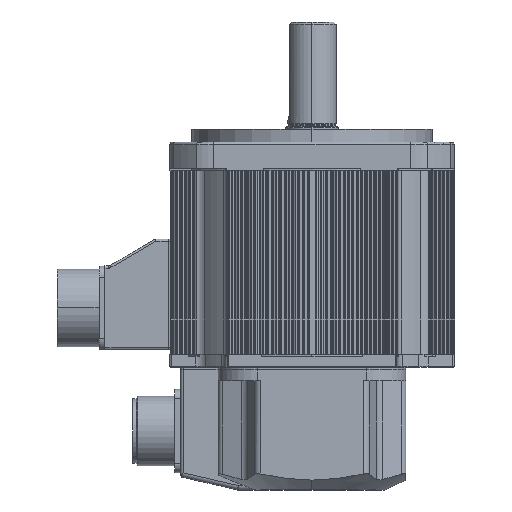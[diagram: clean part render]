
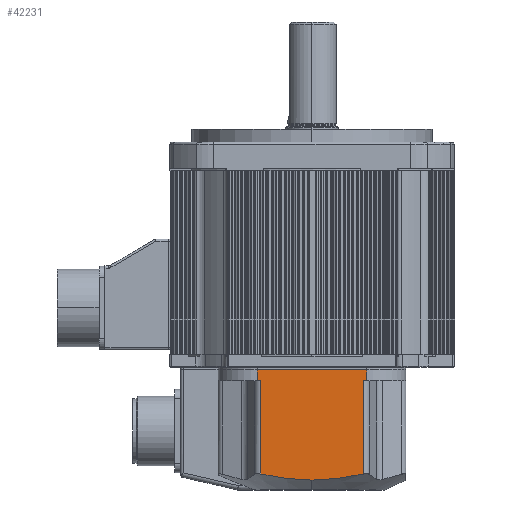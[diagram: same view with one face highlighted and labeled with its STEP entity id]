
A CAD part, left-side view. The second image highlights one B-rep face of the part: STEP entity #42231.
In plain terms, the highlighted planar face has unit normal (-1, 0, 0).
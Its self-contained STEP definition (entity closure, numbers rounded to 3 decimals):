
#1608 = PLANE ( 'NONE',  #38789 ) ;
#4573 = DIRECTION ( 'NONE',  ( 0., 0., 1. ) ) ;
#6337 = CARTESIAN_POINT ( 'NONE',  ( -43., 13.654, -49.485 ) ) ;
#7169 = CARTESIAN_POINT ( 'NONE',  ( -43., 7.799, -50.202 ) ) ;
#7355 = B_SPLINE_CURVE_WITH_KNOTS ( 'NONE', 3,
 ( #35655, #61279, #22605, #23436, #56221, #68804, #49488, #80571, #11266, #42788 ),
 .UNSPECIFIED., .F., .F.,
 ( 4, 2, 2, 2, 4 ),
 ( 0.079, 0.091, 0.097, 0.1, 0.103 ),
 .UNSPECIFIED. ) ;
#8161 = EDGE_CURVE ( 'NONE', #80842, #52055, #82097, .T. ) ;
#9846 = CARTESIAN_POINT ( 'NONE',  ( -43., -25., -5. ) ) ;
#11266 = CARTESIAN_POINT ( 'NONE',  ( -43., -22.429, -47.893 ) ) ;
#12090 = ORIENTED_EDGE ( 'NONE', *, *, #68817, .F. ) ;
#12543 = FACE_OUTER_BOUND ( 'NONE', #44622, .T. ) ;
#13380 = CARTESIAN_POINT ( 'NONE',  ( -43., 0., -5. ) ) ;
#13865 = VERTEX_POINT ( 'NONE', #79155 ) ;
#14580 = ORIENTED_EDGE ( 'NONE', *, *, #44840, .T. ) ;
#14892 = DIRECTION ( 'NONE',  ( 0., 1., 0. ) ) ;
#14985 = VERTEX_POINT ( 'NONE', #47675 ) ;
#20787 = DIRECTION ( 'NONE',  ( 0., 1., 0. ) ) ;
#22605 = CARTESIAN_POINT ( 'NONE',  ( -43., -7.808, -50.201 ) ) ;
#22757 = VECTOR ( 'NONE', #39004, 1000. ) ;
#23436 = CARTESIAN_POINT ( 'NONE',  ( -43., -13.658, -49.485 ) ) ;
#23797 = DIRECTION ( 'NONE',  ( 0., 0., 1. ) ) ;
#26200 = DIRECTION ( 'NONE',  ( 0., 0., 1. ) ) ;
#29757 = ORIENTED_EDGE ( 'NONE', *, *, #82487, .F. ) ;
#30250 = CARTESIAN_POINT ( 'NONE',  ( -43., 25., 0. ) ) ;
#30436 = VERTEX_POINT ( 'NONE', #72360 ) ;
#31281 = VERTEX_POINT ( 'NONE', #61594 ) ;
#34017 = VECTOR ( 'NONE', #4573, 1000. ) ;
#35655 = CARTESIAN_POINT ( 'NONE',  ( -43., 0., -50.454 ) ) ;
#35684 = ORIENTED_EDGE ( 'NONE', *, *, #8161, .T. ) ;
#36484 = CARTESIAN_POINT ( 'NONE',  ( -43., 25., -5. ) ) ;
#37016 = LINE ( 'NONE', #49607, #42641 ) ;
#37423 = CARTESIAN_POINT ( 'NONE',  ( -43., 3.898, -50.454 ) ) ;
#38789 = AXIS2_PLACEMENT_3D ( 'NONE', #70091, #64226, #50776 ) ;
#39004 = DIRECTION ( 'NONE',  ( 0., 1., 0. ) ) ;
#39079 = CARTESIAN_POINT ( 'NONE',  ( -43., 23.399, -47.677 ) ) ;
#41317 = ORIENTED_EDGE ( 'NONE', *, *, #42262, .F. ) ;
#41505 = VECTOR ( 'NONE', #26200, 1000. ) ;
#42065 = VECTOR ( 'NONE', #49887, 1000. ) ;
#42231 = ADVANCED_FACE ( 'NONE', ( #12543 ), #1608, .F. ) ;
#42262 = EDGE_CURVE ( 'NONE', #80842, #67165, #70923, .T. ) ;
#42641 = VECTOR ( 'NONE', #14892, 1000. ) ;
#42685 = VECTOR ( 'NONE', #23797, 1000. ) ;
#42788 = CARTESIAN_POINT ( 'NONE',  ( -43., -23.399, -47.677 ) ) ;
#44622 = EDGE_LOOP ( 'NONE', ( #29757, #51216, #14580, #62784, #41317, #35684, #82140, #12090, #51017 ) ) ;
#44840 = EDGE_CURVE ( 'NONE', #14985, #54067, #7355, .T. ) ;
#47675 = CARTESIAN_POINT ( 'NONE',  ( -43., 0., -50.454 ) ) ;
#49135 = VECTOR ( 'NONE', #20787, 1000. ) ;
#49488 = CARTESIAN_POINT ( 'NONE',  ( -43., -19.506, -48.491 ) ) ;
#49607 = CARTESIAN_POINT ( 'NONE',  ( -43., 0., 0. ) ) ;
#49685 = VERTEX_POINT ( 'NONE', #30250 ) ;
#49887 = DIRECTION ( 'NONE',  ( 0., 0., 1. ) ) ;
#50313 = LINE ( 'NONE', #36484, #34017 ) ;
#50776 = DIRECTION ( 'NONE',  ( 0., 0., -1. ) ) ;
#50852 = CARTESIAN_POINT ( 'NONE',  ( -43., 22.432, -47.893 ) ) ;
#50946 = CARTESIAN_POINT ( 'NONE',  ( -43., -25., 0. ) ) ;
#51017 = ORIENTED_EDGE ( 'NONE', *, *, #71770, .F. ) ;
#51216 = ORIENTED_EDGE ( 'NONE', *, *, #77457, .T. ) ;
#52055 = VERTEX_POINT ( 'NONE', #50946 ) ;
#54067 = VERTEX_POINT ( 'NONE', #76471 ) ;
#56221 = CARTESIAN_POINT ( 'NONE',  ( -43., -15.608, -49.19 ) ) ;
#56751 = CARTESIAN_POINT ( 'NONE',  ( -43., 0., -50.454 ) ) ;
#58989 = EDGE_CURVE ( 'NONE', #54067, #67165, #62908, .T. ) ;
#61279 = CARTESIAN_POINT ( 'NONE',  ( -43., -3.905, -50.454 ) ) ;
#61594 = CARTESIAN_POINT ( 'NONE',  ( -43., 25., -5. ) ) ;
#62065 = CARTESIAN_POINT ( 'NONE',  ( -43., -23.399, -5. ) ) ;
#62784 = ORIENTED_EDGE ( 'NONE', *, *, #58989, .T. ) ;
#62908 = LINE ( 'NONE', #81801, #42065 ) ;
#64226 = DIRECTION ( 'NONE',  ( 1., 0., 0. ) ) ;
#64459 = CARTESIAN_POINT ( 'NONE',  ( -43., -25., -5. ) ) ;
#64717 = CARTESIAN_POINT ( 'NONE',  ( -43., 21.461, -48.099 ) ) ;
#67165 = VERTEX_POINT ( 'NONE', #62065 ) ;
#68099 = B_SPLINE_CURVE_WITH_KNOTS ( 'NONE', 3,
 ( #39079, #50852, #64717, #70163, #77290, #71001, #6337, #7169, #37423, #56751 ),
 .UNSPECIFIED., .F., .F.,
 ( 4, 2, 2, 2, 4 ),
 ( 0.056, 0.058, 0.061, 0.067, 0.079 ),
 .UNSPECIFIED. ) ;
#68804 = CARTESIAN_POINT ( 'NONE',  ( -43., -18.531, -48.675 ) ) ;
#68817 = EDGE_CURVE ( 'NONE', #31281, #49685, #50313, .T. ) ;
#70091 = CARTESIAN_POINT ( 'NONE',  ( -43., 0., -55. ) ) ;
#70163 = CARTESIAN_POINT ( 'NONE',  ( -43., 19.512, -48.49 ) ) ;
#70923 = LINE ( 'NONE', #13380, #22757 ) ;
#71001 = CARTESIAN_POINT ( 'NONE',  ( -43., 15.606, -49.19 ) ) ;
#71770 = EDGE_CURVE ( 'NONE', #30436, #31281, #79160, .T. ) ;
#72360 = CARTESIAN_POINT ( 'NONE',  ( -43., 23.399, -5. ) ) ;
#74638 = CARTESIAN_POINT ( 'NONE',  ( -43., 23.399, -55. ) ) ;
#75053 = LINE ( 'NONE', #74638, #42685 ) ;
#76471 = CARTESIAN_POINT ( 'NONE',  ( -43., -23.399, -47.677 ) ) ;
#77290 = CARTESIAN_POINT ( 'NONE',  ( -43., 18.535, -48.674 ) ) ;
#77457 = EDGE_CURVE ( 'NONE', #13865, #14985, #68099, .T. ) ;
#79155 = CARTESIAN_POINT ( 'NONE',  ( -43., 23.399, -47.677 ) ) ;
#79160 = LINE ( 'NONE', #79570, #49135 ) ;
#79570 = CARTESIAN_POINT ( 'NONE',  ( -43., 0., -5. ) ) ;
#80571 = CARTESIAN_POINT ( 'NONE',  ( -43., -21.455, -48.1 ) ) ;
#80841 = EDGE_CURVE ( 'NONE', #52055, #49685, #37016, .T. ) ;
#80842 = VERTEX_POINT ( 'NONE', #9846 ) ;
#81801 = CARTESIAN_POINT ( 'NONE',  ( -43., -23.399, -55. ) ) ;
#82097 = LINE ( 'NONE', #64459, #41505 ) ;
#82140 = ORIENTED_EDGE ( 'NONE', *, *, #80841, .T. ) ;
#82487 = EDGE_CURVE ( 'NONE', #13865, #30436, #75053, .T. ) ;
